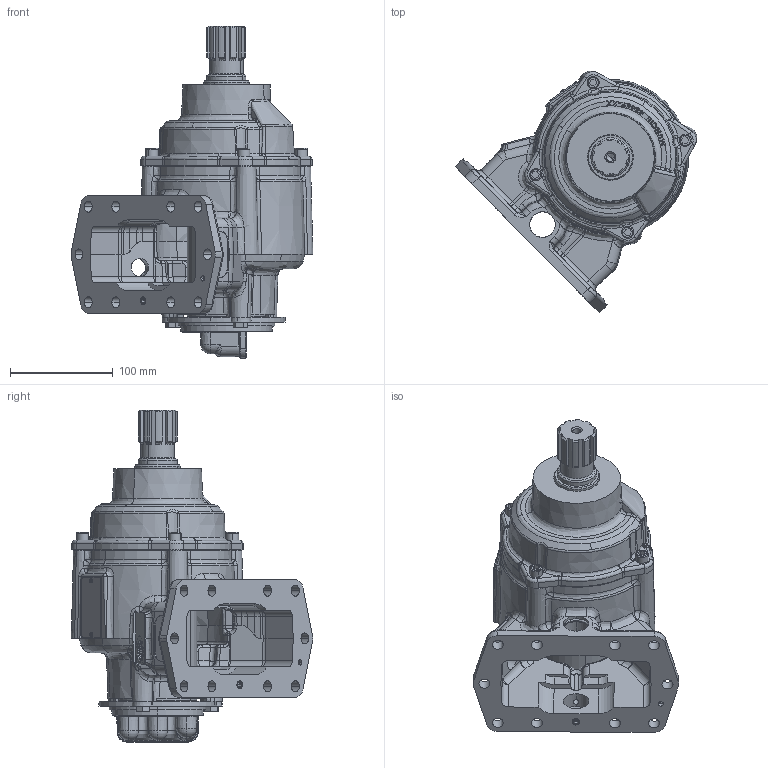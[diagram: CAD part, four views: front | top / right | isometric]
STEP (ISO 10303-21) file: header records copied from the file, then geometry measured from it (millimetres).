
FILE_DESCRIPTION (( 'STEP AP203' ), '1' );
FILE_NAME ('A30-A10XX-MX51XPX.STEP', '2023-03-07T19:21:57', ( '' ), ( '' ), 'SwSTEP 2.0', 'SolidWorks 2021', '' );
FILE_SCHEMA (( 'CONFIG_CONTROL_DESIGN' ));
Products named in the file (6): 15T64348_DIECAST DESIGN; A30-A10XX-MX51XPX; RearCover; 1X_OUTPUT; 01T43513_5Arrangement; RearCover_HexHeadCapScrew_19T33134
Assembly tree (7 placements, depth 2):
  A30-A10XX-MX51XPX
    01T43513_5Arrangement
    1X_OUTPUT
    RearCover_HexHeadCapScrew_19T33134  x3
    RearCover
    15T64348_DIECAST DESIGN
Bounding box: 235.16 x 235.02 x 322.79 mm (x, y, z)
Volume: 2294694.3 mm3; surface area: 411750.2 mm2
Topology: 21 solids, 21 shells, 2371 faces, 5949 edges, 3663 vertices
Faces by surface type: plane 842, bspline 805, cylinder 444, cone 247, torus 33
Entity records: 116768 total; most frequent: CARTESIAN_POINT 65970, ORIENTED_EDGE 11610, DIRECTION 8747, EDGE_CURVE 5805, VERTEX_POINT 3607, AXIS2_PLACEMENT_3D 3099, VECTOR 2549, LINE 2549
